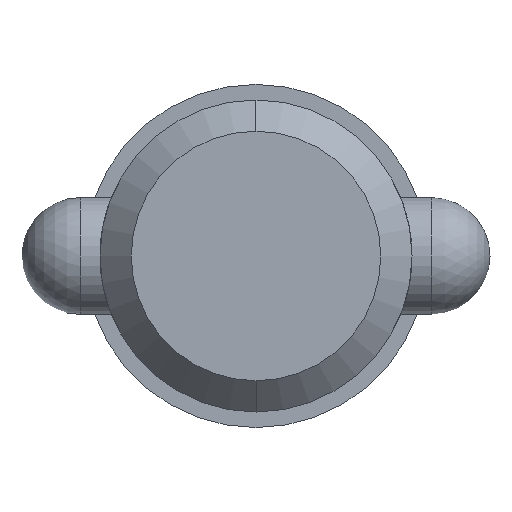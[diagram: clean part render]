
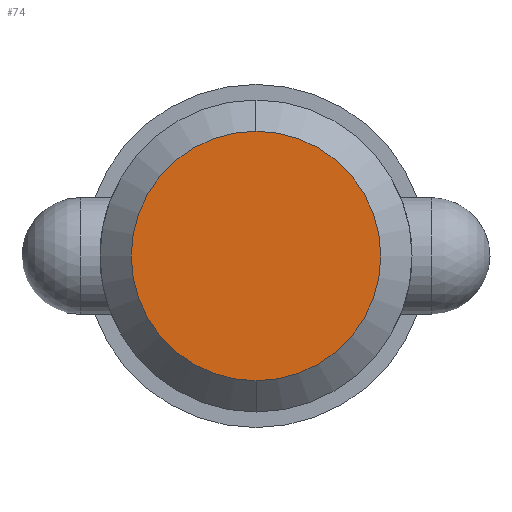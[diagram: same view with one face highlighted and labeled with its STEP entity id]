
A CAD part, left-side view. The second image highlights one B-rep face of the part: STEP entity #74.
In plain terms, the highlighted planar face has unit normal (-1, 0, 0).
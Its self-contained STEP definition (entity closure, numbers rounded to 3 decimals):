
#36 = DIRECTION ( 'NONE',  ( -1., 0., 0. ) ) ;
#68 = VERTEX_POINT ( 'NONE', #454 ) ;
#69 = CARTESIAN_POINT ( 'NONE',  ( 0., 0., 0. ) ) ;
#74 = ADVANCED_FACE ( 'NONE', ( #972 ), #468, .T. ) ;
#272 = CARTESIAN_POINT ( 'NONE',  ( 0., 0., 10.16 ) ) ;
#274 = AXIS2_PLACEMENT_3D ( 'NONE', #69, #981, #579 ) ;
#357 = EDGE_CURVE ( 'NONE', #388, #68, #544, .T. ) ;
#372 = DIRECTION ( 'NONE',  ( 0., 0., 1. ) ) ;
#388 = VERTEX_POINT ( 'NONE', #272 ) ;
#395 = CARTESIAN_POINT ( 'NONE',  ( 0., 0., 0. ) ) ;
#454 = CARTESIAN_POINT ( 'NONE',  ( 0., 0., -10.16 ) ) ;
#468 = PLANE ( 'NONE',  #856 ) ;
#541 = DIRECTION ( 'NONE',  ( 0., 0., -1. ) ) ;
#544 = CIRCLE ( 'NONE', #812, 10.16 ) ;
#579 = DIRECTION ( 'NONE',  ( 0., 0., -1. ) ) ;
#620 = EDGE_CURVE ( 'NONE', #68, #388, #755, .T. ) ;
#755 = CIRCLE ( 'NONE', #274, 10.16 ) ;
#797 = DIRECTION ( 'NONE',  ( 1., 0., 0. ) ) ;
#812 = AXIS2_PLACEMENT_3D ( 'NONE', #939, #797, #541 ) ;
#817 = ORIENTED_EDGE ( 'NONE', *, *, #357, .F. ) ;
#856 = AXIS2_PLACEMENT_3D ( 'NONE', #395, #36, #372 ) ;
#868 = ORIENTED_EDGE ( 'NONE', *, *, #620, .F. ) ;
#939 = CARTESIAN_POINT ( 'NONE',  ( 0., 0., 0. ) ) ;
#972 = FACE_OUTER_BOUND ( 'NONE', #1018, .T. ) ;
#981 = DIRECTION ( 'NONE',  ( 1., 0., 0. ) ) ;
#1018 = EDGE_LOOP ( 'NONE', ( #868, #817 ) ) ;
